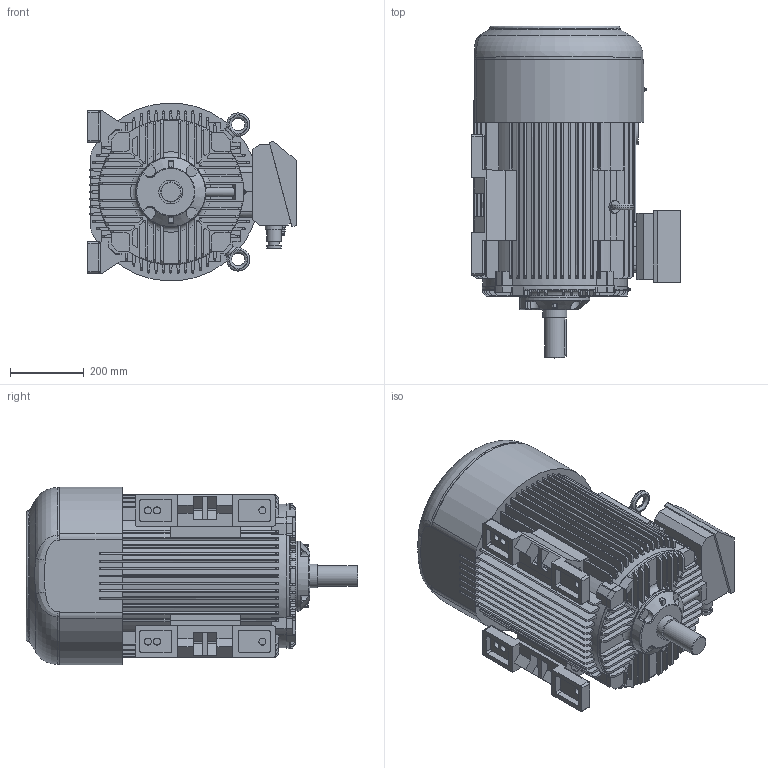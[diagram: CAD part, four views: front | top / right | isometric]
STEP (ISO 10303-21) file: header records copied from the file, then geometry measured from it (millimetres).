
FILE_DESCRIPTION( ( 'Unknown' ), '1' );
FILE_NAME( 'P:/3D_Bry³y silników skatalogowane/SIE/2SIE225/2SIE225_STEP/2SIE225 M2 silnik.stp', 'Unknown', ( 'Unknown' ), ( 'Unknown' ), 'XStep 1.0', 'Unknown', ' ' );
FILE_SCHEMA( ( 'CONFIG_CONTROL_DESIGN' ) );
Length unit declared in the file: millimetre
Products named in the file (1): 1
Bounding box: 565.05 x 900.14 x 482.33 mm (x, y, z)
Volume: 114889874.7 mm3; surface area: 2969941.3 mm2
Topology: 1 solids, 5 shells, 1160 faces, 3160 edges, 2032 vertices
Faces by surface type: plane 768, cylinder 277, torus 90, sphere 10, bspline 8, cone 7
Full cylindrical faces by diameter (mm): 1.6 x2, 5 x4, 10 x3, 12.891 x1, 19 x6, 20 x1, 22.969 x1, 26.249 x1, 27 x1, 30 x4, 35 x4, 40 x4, 47 x2, 55 x1, 64.5 x1, 188 x1, 190 x1
Entity records: 40848 total; most frequent: CARTESIAN_POINT 11699, ORIENTED_EDGE 6136, DIRECTION 5981, EDGE_CURVE 3068, AXIS2_PLACEMENT_3D 2016, VERTEX_POINT 2013, LINE 1949, VECTOR 1949
